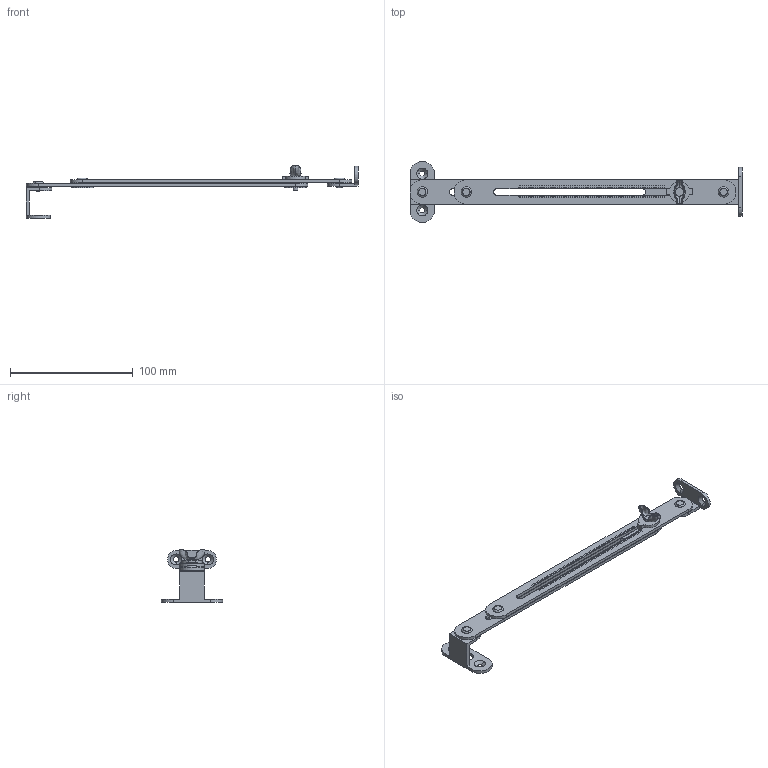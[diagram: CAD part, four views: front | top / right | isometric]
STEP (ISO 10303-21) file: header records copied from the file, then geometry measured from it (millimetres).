
FILE_DESCRIPTION (( 'STEP AP214' ), '1' );
FILE_NAME ('D4 KD-1024.STEP', '2012-09-03T06:57:34', ( '' ), ( '' ), 'SwSTEP 2.0', 'SolidWorks 2012', '' );
FILE_SCHEMA (( 'AUTOMOTIVE_DESIGN' ));
Length unit declared in the file: millimetre
Products named in the file (10): wing bolt type 3 JIS_PreviewCfg-1; 褻薑晦-008-1; 褻薑晦-005-1; 褻薑晦-006-1; 褻薑晦-002-1; 褻薑晦-007-1; 褻薑晦-004-1; 褻薑晦-003-1; 褻薑晦-001-1; D4 KD-1024
Assembly tree (16 placements, depth 2):
  D4 KD-1024
    褻薑晦-001-1
    褻薑晦-003-1
    褻薑晦-004-1
    褻薑晦-007-1  x5
    褻薑晦-002-1
    褻薑晦-006-1
    褻薑晦-005-1  x2
    褻薑晦-008-1  x3
    wing bolt type 3 JIS_PreviewCfg-1
Bounding box: 271 x 50 x 43 mm (x, y, z)
Volume: 26474.4 mm3; surface area: 29717.5 mm2
Topology: 16 solids, 16 shells, 1478 faces, 3028 edges, 1903 vertices
Faces by surface type: plane 1356, cylinder 98, bspline 16, cone 8
Entity records: 38584 total; most frequent: CARTESIAN_POINT 8032, DIRECTION 5872, ORIENTED_EDGE 5844, EDGE_CURVE 2922, LINE 2730, VECTOR 2730, VERTEX_POINT 1837, EDGE_LOOP 1781
